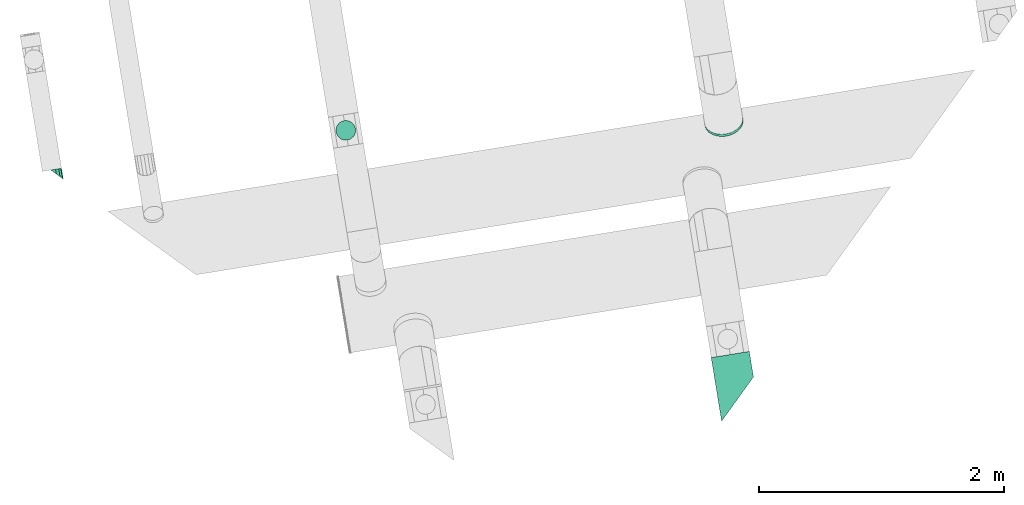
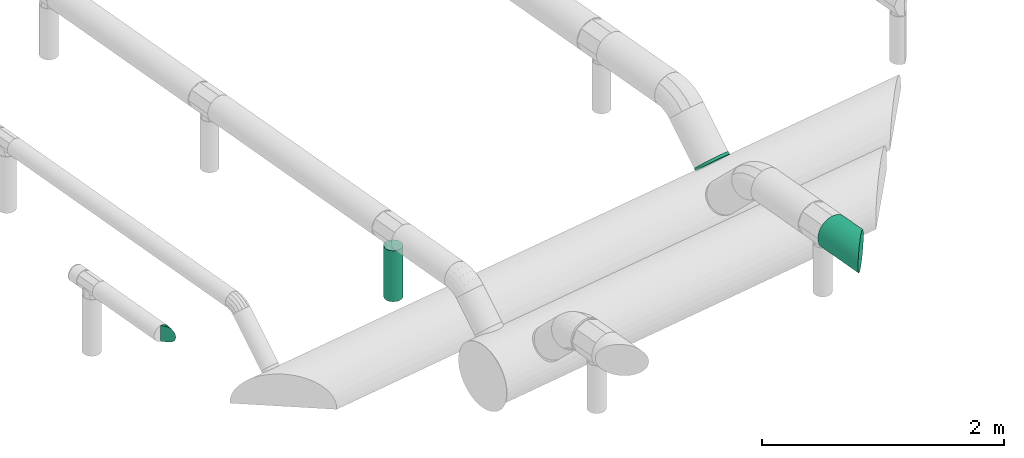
# One storey, part 11 of 15: 2 flow fittings, 2 flow segments.
"""IFC2X3 building model written with IfcOpenShell, lengths in millimetres."""

from ifc_helpers import new_model, entity, si_unit, converted_unit, derived_unit, direction, frame, origin, origin_with_axes, place, context, subcontext, project, spatial, faceted_brep, source, transform, mapped, material, type_object, element, save


model = new_model("IFC2X3")

# Units and contexts
model_context = context("Model", 3, precision=0.01, world=origin(), true_north=direction((6.12323399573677e-17, 1.0)))
plan_context = context("Plan", 3, precision=1e-05, world=origin_with_axes())
body_context = subcontext(model_context, "Body", "Model", "MODEL_VIEW")
ifc_project = project(units=[converted_unit("PLANEANGLEUNIT", "DEGREE", entity("IfcPositiveLengthMeasure", 0.0174532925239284), si_unit("PLANEANGLEUNIT", "RADIAN"), dimensions=[0, 0, 0, 0, 0, 0, 0]), si_unit("AREAUNIT", "SQUARE_METRE"), si_unit("LENGTHUNIT", "METRE", prefix="MILLI"), si_unit("MASSUNIT", "GRAM", prefix="KILO"), si_unit("POWERUNIT", "WATT"), si_unit("PRESSUREUNIT", "PASCAL", prefix="KILO"), si_unit("FORCEUNIT", "NEWTON", prefix="KILO"), si_unit("ELECTRICVOLTAGEUNIT", "VOLT"), si_unit("ELECTRICCURRENTUNIT", "AMPERE"), si_unit("THERMODYNAMICTEMPERATUREUNIT", "DEGREE_CELSIUS"), si_unit("TIMEUNIT", "SECOND"), si_unit("VOLUMEUNIT", "CUBIC_METRE"), derived_unit("LINEARVELOCITYUNIT", [(si_unit("LENGTHUNIT", "METRE"), 1), (si_unit("TIMEUNIT", "SECOND"), -1)]), derived_unit("VOLUMETRICFLOWRATEUNIT", [(si_unit("VOLUMEUNIT", "CUBIC_METRE"), 1), (si_unit("TIMEUNIT", "SECOND"), -1)]), derived_unit("THERMALTRANSMITTANCEUNIT", [(si_unit("POWERUNIT", "WATT"), 1), (si_unit("THERMODYNAMICTEMPERATUREUNIT", "KELVIN"), -1), (si_unit("AREAUNIT", "SQUARE_METRE"), -1)]), derived_unit("SOUNDPRESSUREUNIT", [(si_unit("PRESSUREUNIT", "PASCAL"), 1)])], contexts=[model_context, plan_context])

# Site, building, storey
site_placement = place(None, frame((5.09380697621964e-08, 5.80416781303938e-08, 0.0), z_axis=(0.0, 0.0, 1.0), x_axis=(-0.160806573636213, 0.986985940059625, 0.0)))
site = spatial("IfcSite", under=ifc_project, at=site_placement, Name="Default", CompositionType="ELEMENT")
building_placement = place(site_placement, frame((0.0, 0.0, 0.0), z_axis=(0.0, 0.0, 1.0), x_axis=(1.0, -2.77555756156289e-17, 0.0)))
building = spatial("IfcBuilding", under=site, at=building_placement, Name="Bygning (endres i Project Information)", CompositionType="ELEMENT")
storey_placement = place(building_placement, frame((0.0, 0.0, 51360.0000000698), z_axis=(0.0, 0.0, 1.0), x_axis=(1.0, -2.77555756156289e-17, 0.0)))
storey = spatial("IfcBuildingStorey", under=building, at=storey_placement, Name="H01-Nivå D+0,36", CompositionType="ELEMENT", Elevation=51360.0000000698)

# Flow fittings
ifc_material = material(Name="3601.001 Tilluft")
duct_fitting_type_1 = type_object("IfcDuctFittingType", Name="magicirc_tapoutlet_001:magicirc_tapoutlet_001", PredefinedType="NOTDEFINED", material=ifc_material)
shared_shape = source(origin(), body_context, "Body", "Brep", [
    faceted_brep([(-6.09600000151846, 0.0, -157.500000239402), (-6.09600000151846, -40.7639996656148, -152.133317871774), (-6.09600000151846, -78.7500001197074, -136.399001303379), (-6.09600000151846, -111.369318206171, -111.369318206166), (-6.09600000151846, -136.399001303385, -78.7500001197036), (-6.09600000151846, -152.133317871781, -40.7639996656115), (-6.09600000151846, -157.500000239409, 0.0), (-6.09600000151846, -152.13331787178, 40.7639996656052), (-6.09600000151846, -136.399001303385, 78.750000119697), (-6.09600000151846, -111.369318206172, 111.36931820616), (-6.09600000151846, -78.7500001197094, 136.399001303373), (-6.09600000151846, -40.7639996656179, 152.133317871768), (-6.09600000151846, 0.0, 157.500000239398), (-6.09600000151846, 40.7639996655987, 152.133317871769), (-6.09600000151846, 78.7500001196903, 136.399001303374), (-6.09600000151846, 111.369318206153, 111.369318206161), (-6.09600000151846, 136.399001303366, 78.7500001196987), (-6.09600000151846, 152.133317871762, 40.7639996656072), (-6.09600000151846, 157.500000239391, 0.0), (-6.09600000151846, 152.133317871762, -40.7639996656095), (-6.09600000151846, 136.399001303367, -78.7500001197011), (-6.09600000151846, 111.369318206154, -111.369318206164), (-6.09600000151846, 78.7500001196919, -136.399001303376), (-6.09600000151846, 40.7639996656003, -152.133317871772), (0.0, 0.0, 157.500000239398), (20.0, 0.0, 157.500000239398), (20.0, 40.7639996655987, 152.133317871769), (0.0, 40.7639996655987, 152.133317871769), (20.0, 78.7500001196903, 136.399001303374), (0.0, 78.7500001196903, 136.399001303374), (20.0, 111.369318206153, 111.369318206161), (0.0, 111.369318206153, 111.369318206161), (0.0, 136.399001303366, 78.7500001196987), (20.0, 136.399001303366, 78.7500001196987), (20.0, 152.133317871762, 40.7639996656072), (0.0, 152.133317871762, 40.7639996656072), (20.0, 157.500000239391, 0.0), (0.0, 157.500000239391, 0.0), (20.0, 152.133317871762, -40.7639996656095), (0.0, 152.133317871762, -40.7639996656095), (20.0, 136.399001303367, -78.7500001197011), (0.0, 136.399001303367, -78.7500001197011), (20.0, 111.369318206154, -111.369318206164), (0.0, 111.369318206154, -111.369318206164), (0.0, 40.7639996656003, -152.133317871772), (20.0, 40.7639996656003, -152.133317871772), (20.0, 0.0, -157.500000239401), (0.0, 0.0, -157.500000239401), (0.0, 78.7500001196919, -136.399001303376), (20.0, 78.7500001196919, -136.399001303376), (20.0, -40.7639996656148, -152.133317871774), (0.0, -40.7639996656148, -152.133317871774), (20.0, -78.7500001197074, -136.399001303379), (0.0, -78.7500001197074, -136.399001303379), (20.0, -111.369318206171, -111.369318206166), (0.0, -111.369318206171, -111.369318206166), (0.0, -136.399001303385, -78.7500001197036), (20.0, -136.399001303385, -78.7500001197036), (20.0, -152.133317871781, -40.7639996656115), (0.0, -152.133317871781, -40.7639996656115), (20.0, -157.50000023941, 0.0), (0.0, -157.50000023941, 0.0), (20.0, -152.13331787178, 40.7639996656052), (0.0, -152.13331787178, 40.7639996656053), (20.0, -136.399001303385, 78.750000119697), (0.0, -136.399001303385, 78.750000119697), (20.0, -111.369318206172, 111.36931820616), (0.0, -111.369318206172, 111.36931820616), (0.0, -78.7500001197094, 136.399001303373), (20.0, -78.7500001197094, 136.399001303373), (20.0, -40.7639996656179, 152.133317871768), (0.0, -40.7639996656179, 152.133317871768)], [[[0, 1, 2, 3, 4, 5, 6, 7, 8, 9, 10, 11, 12, 13, 14, 15, 16, 17, 18, 19, 20, 21, 22, 23]], [[12, 24, 25, 26, 27, 13]], [[13, 27, 26, 28, 29, 14]], [[14, 29, 28, 30, 31, 15]], [[16, 32, 33, 34, 35, 17]], [[17, 35, 34, 36, 37, 18]], [[15, 31, 30, 33, 32, 16]], [[18, 37, 36, 38, 39, 19]], [[19, 39, 38, 40, 41, 20]], [[20, 41, 40, 42, 43, 21]], [[44, 45, 46, 47, 0, 23]], [[48, 49, 45, 44, 23, 22]], [[22, 21, 43, 42, 49, 48]], [[0, 47, 46, 50, 51, 1]], [[1, 51, 50, 52, 53, 2]], [[2, 53, 52, 54, 55, 3]], [[4, 56, 57, 58, 59, 5]], [[5, 59, 58, 60, 61, 6]], [[3, 55, 54, 57, 56, 4]], [[6, 61, 60, 62, 63, 7]], [[7, 63, 62, 64, 65, 8]], [[8, 65, 64, 66, 67, 9]], [[10, 68, 69, 70, 71, 11]], [[11, 71, 70, 25, 24, 12]], [[9, 67, 66, 69, 68, 10]], [[45, 49, 42, 40, 38, 36, 34, 33, 30, 28, 26, 25, 70, 69, 66, 64, 62, 60, 58, 57, 54, 52, 50, 46]]]),
    faceted_brep([(20.0, 40.7639996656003, -152.133317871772), (20.0, 78.7500001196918, -136.399001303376), (20.0, 111.369318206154, -111.369318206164), (20.0, 136.399001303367, -78.7500001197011), (20.0, 152.133317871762, -40.7639996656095), (20.0, 157.500000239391, 0.0), (20.0, 152.133317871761, 40.7639996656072), (20.0, 136.399001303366, 78.7500001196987), (20.0, 111.369318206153, 111.369318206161), (20.0, 78.7500001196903, 136.399001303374), (20.0, 40.7639996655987, 152.133317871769), (20.0, 0.0, 157.500000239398), (20.0, -40.763999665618, 152.133317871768), (20.0, -78.7500001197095, 136.399001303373), (20.0, -111.369318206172, 111.36931820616), (20.0, -136.399001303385, 78.750000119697), (20.0, -152.13331787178, 40.7639996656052), (20.0, -157.50000023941, 0.0), (20.0, -152.133317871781, -40.7639996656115), (20.0, -136.399001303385, -78.7500001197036), (20.0, -111.369318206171, -111.369318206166), (20.0, -78.7500001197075, -136.399001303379), (20.0, -40.7639996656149, -152.133317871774), (20.0, 0.0, -157.500000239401), (0.0, 0.0, 157.500000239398), (0.0, 40.7639996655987, 152.133317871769), (-6.09600000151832, 40.7639996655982, 152.133317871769), (-6.09600000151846, 0.0, 157.500000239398), (0.0, 78.7500001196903, 136.399001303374), (-6.09600000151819, 78.7500001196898, 136.399001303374), (0.0, 111.369318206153, 111.369318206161), (-6.09600000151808, 111.369318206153, 111.369318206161), (0.0, 136.399001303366, 78.7500001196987), (0.0, 152.133317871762, 40.7639996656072), (-6.09600000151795, 152.133317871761, 40.7639996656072), (-6.096000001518, 136.399001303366, 78.7500001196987), (0.0, 157.500000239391, 0.0), (-6.09600000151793, 157.500000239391, 0.0), (0.0, 152.133317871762, -40.7639996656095), (-6.09600000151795, 152.133317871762, -40.7639996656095), (0.0, 136.399001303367, -78.7500001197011), (-6.096000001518, 136.399001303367, -78.7500001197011), (0.0, 111.369318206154, -111.369318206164), (-6.09600000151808, 111.369318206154, -111.369318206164), (0.0, 0.0, -157.500000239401), (-6.09600000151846, 0.0, -157.500000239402), (-6.09600000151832, 40.7639996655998, -152.133317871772), (0.0, 40.7639996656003, -152.133317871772), (-6.09600000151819, 78.7500001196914, -136.399001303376), (0.0, 78.7500001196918, -136.399001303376), (0.0, -40.7639996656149, -152.133317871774), (-6.09600000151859, -40.7639996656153, -152.133317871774), (0.0, -78.7500001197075, -136.399001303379), (-6.09600000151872, -78.7500001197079, -136.399001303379), (0.0, -111.369318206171, -111.369318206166), (-6.09600000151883, -111.369318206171, -111.369318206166), (0.0, -136.399001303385, -78.7500001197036), (0.0, -152.133317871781, -40.7639996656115), (-6.09600000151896, -152.133317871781, -40.7639996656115), (-6.09600000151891, -136.399001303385, -78.7500001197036), (0.0, -157.50000023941, 0.0), (-6.09600000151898, -157.500000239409, 0.0), (0.0, -152.13331787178, 40.7639996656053), (-6.09600000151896, -152.13331787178, 40.7639996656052), (0.0, -136.399001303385, 78.750000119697), (-6.09600000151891, -136.399001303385, 78.750000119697), (0.0, -111.369318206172, 111.36931820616), (-6.09600000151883, -111.369318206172, 111.36931820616), (0.0, -78.7500001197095, 136.399001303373), (0.0, -40.7639996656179, 152.133317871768), (-6.09600000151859, -40.7639996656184, 152.133317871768), (-6.09600000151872, -78.7500001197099, 136.399001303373)], [[[0, 1, 2, 3, 4, 5, 6, 7, 8, 9, 10, 11, 12, 13, 14, 15, 16, 17, 18, 19, 20, 21, 22, 23]], [[24, 11, 10, 25, 26, 27]], [[25, 10, 9, 28, 29, 26]], [[28, 9, 8, 30, 31, 29]], [[32, 7, 6, 33, 34, 35]], [[33, 6, 5, 36, 37, 34]], [[30, 8, 7, 32, 35, 31]], [[36, 5, 4, 38, 39, 37]], [[38, 4, 3, 40, 41, 39]], [[40, 3, 2, 42, 43, 41]], [[0, 23, 44, 45, 46, 47]], [[1, 0, 47, 46, 48, 49]], [[49, 48, 43, 42, 2, 1]], [[44, 23, 22, 50, 51, 45]], [[50, 22, 21, 52, 53, 51]], [[52, 21, 20, 54, 55, 53]], [[56, 19, 18, 57, 58, 59]], [[57, 18, 17, 60, 61, 58]], [[54, 20, 19, 56, 59, 55]], [[60, 17, 16, 62, 63, 61]], [[62, 16, 15, 64, 65, 63]], [[64, 15, 14, 66, 67, 65]], [[68, 13, 12, 69, 70, 71]], [[69, 12, 11, 24, 27, 70]], [[66, 14, 13, 68, 71, 67]], [[45, 51, 53, 55, 59, 58, 61, 63, 65, 67, 71, 70, 27, 26, 29, 31, 35, 34, 37, 39, 41, 43, 48, 46]]]),
    faceted_brep([(-6.09600000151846, 0.0, -157.500000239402), (-6.09600000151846, -40.7639996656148, -152.133317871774), (-6.09600000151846, -78.7500001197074, -136.399001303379), (-6.09600000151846, -111.369318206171, -111.369318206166), (-6.09600000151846, -136.399001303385, -78.7500001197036), (-6.09600000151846, -152.133317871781, -40.7639996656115), (-6.09600000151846, -157.500000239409, 0.0), (-6.09600000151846, -152.13331787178, 40.7639996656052), (-6.09600000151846, -136.399001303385, 78.750000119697), (-6.09600000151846, -111.369318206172, 111.36931820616), (-6.09600000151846, -78.7500001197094, 136.399001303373), (-6.09600000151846, -40.7639996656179, 152.133317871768), (-6.09600000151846, 0.0, 157.500000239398), (-6.09600000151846, 40.7639996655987, 152.133317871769), (-6.09600000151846, 78.7500001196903, 136.399001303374), (-6.09600000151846, 111.369318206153, 111.369318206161), (-6.09600000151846, 136.399001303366, 78.7500001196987), (-6.09600000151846, 152.133317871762, 40.7639996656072), (-6.09600000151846, 157.500000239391, 0.0), (-6.09600000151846, 152.133317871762, -40.7639996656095), (-6.09600000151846, 136.399001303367, -78.7500001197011), (-6.09600000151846, 111.369318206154, -111.369318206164), (-6.09600000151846, 78.7500001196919, -136.399001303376), (-6.09600000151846, 40.7639996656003, -152.133317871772), (0.0, 0.0, 157.500000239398), (20.0, 0.0, 157.500000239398), (20.0, 40.7639996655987, 152.133317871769), (0.0, 40.7639996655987, 152.133317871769), (20.0, 78.7500001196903, 136.399001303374), (0.0, 78.7500001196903, 136.399001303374), (20.0, 111.369318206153, 111.369318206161), (0.0, 111.369318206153, 111.369318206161), (0.0, 136.399001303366, 78.7500001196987), (20.0, 136.399001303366, 78.7500001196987), (20.0, 152.133317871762, 40.7639996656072), (0.0, 152.133317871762, 40.7639996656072), (20.0, 157.500000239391, 0.0), (0.0, 157.500000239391, 0.0), (20.0, 152.133317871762, -40.7639996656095), (0.0, 152.133317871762, -40.7639996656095), (20.0, 136.399001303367, -78.7500001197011), (0.0, 136.399001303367, -78.7500001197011), (20.0, 111.369318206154, -111.369318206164), (0.0, 111.369318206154, -111.369318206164), (0.0, 40.7639996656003, -152.133317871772), (20.0, 40.7639996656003, -152.133317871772), (20.0, 0.0, -157.500000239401), (0.0, 0.0, -157.500000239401), (0.0, 78.7500001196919, -136.399001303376), (20.0, 78.7500001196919, -136.399001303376), (20.0, -40.7639996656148, -152.133317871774), (0.0, -40.7639996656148, -152.133317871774), (20.0, -78.7500001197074, -136.399001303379), (0.0, -78.7500001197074, -136.399001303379), (20.0, -111.369318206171, -111.369318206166), (0.0, -111.369318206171, -111.369318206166), (0.0, -136.399001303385, -78.7500001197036), (20.0, -136.399001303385, -78.7500001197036), (20.0, -152.133317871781, -40.7639996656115), (0.0, -152.133317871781, -40.7639996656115), (20.0, -157.50000023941, 0.0), (0.0, -157.50000023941, 0.0), (20.0, -152.13331787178, 40.7639996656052), (0.0, -152.13331787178, 40.7639996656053), (20.0, -136.399001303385, 78.750000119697), (0.0, -136.399001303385, 78.750000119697), (20.0, -111.369318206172, 111.36931820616), (0.0, -111.369318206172, 111.36931820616), (0.0, -78.7500001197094, 136.399001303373), (20.0, -78.7500001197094, 136.399001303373), (20.0, -40.7639996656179, 152.133317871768), (0.0, -40.7639996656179, 152.133317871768)], [[[0, 1, 2, 3, 4, 5, 6, 7, 8, 9, 10, 11, 12, 13, 14, 15, 16, 17, 18, 19, 20, 21, 22, 23]], [[12, 24, 25, 26, 27, 13]], [[13, 27, 26, 28, 29, 14]], [[14, 29, 28, 30, 31, 15]], [[16, 32, 33, 34, 35, 17]], [[17, 35, 34, 36, 37, 18]], [[15, 31, 30, 33, 32, 16]], [[18, 37, 36, 38, 39, 19]], [[19, 39, 38, 40, 41, 20]], [[20, 41, 40, 42, 43, 21]], [[44, 45, 46, 47, 0, 23]], [[48, 49, 45, 44, 23, 22]], [[22, 21, 43, 42, 49, 48]], [[0, 47, 46, 50, 51, 1]], [[1, 51, 50, 52, 53, 2]], [[2, 53, 52, 54, 55, 3]], [[4, 56, 57, 58, 59, 5]], [[5, 59, 58, 60, 61, 6]], [[3, 55, 54, 57, 56, 4]], [[6, 61, 60, 62, 63, 7]], [[7, 63, 62, 64, 65, 8]], [[8, 65, 64, 66, 67, 9]], [[10, 68, 69, 70, 71, 11]], [[11, 71, 70, 25, 24, 12]], [[9, 67, 66, 69, 68, 10]], [[45, 49, 42, 40, 38, 36, 34, 33, 30, 28, 26, 25, 70, 69, 66, 64, 62, 60, 58, 57, 54, 52, 50, 46]]]),
])
flow_fitting_1_placement = place(storey_placement, frame((995383.020316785, -343179.24363092, 3372.73865807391), z_axis=(0.707106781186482, -1.96261557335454e-17, -0.707106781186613), x_axis=(0.707106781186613, 0.0, 0.707106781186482)))
element("IfcFlowFitting", 1, at=flow_fitting_1_placement, inside=storey, type_object=duct_fitting_type_1, material=ifc_material, Name="magicirc_tapoutlet_001:magicirc_tapoutlet_001", ObjectType="magicirc_tapoutlet_001:magicirc_tapoutlet_001", context=body_context, shape_type="MappedRepresentation", body=[
    mapped(shared_shape, transform((0.0, 0.0, 0.0), scale=1.0)),
])
duct_fitting_type_2 = type_object("IfcDuctFittingType", Name="magicirc_elbow_full_radius_NOR:magicirc_elbow_full_radius_NOR", PredefinedType="NOTDEFINED", material=ifc_material)
flow_fitting_2_placement = place(storey_placement, frame((995814.60860431, -337705.593327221, 3804.36866273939), z_axis=(-2.77555756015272e-17, -1.0, -8.84761341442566e-22), x_axis=(-0.999999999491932, 2.77555756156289e-17, -3.18768867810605e-05)))
element("IfcFlowFitting", 2, at=flow_fitting_2_placement, inside=storey, type_object=duct_fitting_type_2, Name="magicirc_elbow_full_radius_NOR:magicirc_elbow_full_radius_NOR", ObjectType="magicirc_elbow_full_radius_NOR:magicirc_elbow_full_radius_NOR", context=body_context, shape_type="Brep", body=[
    faceted_brep([(-25.321484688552, -68.518839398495, 30.6146746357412), (-55.9364819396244, -78.6390176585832, 0.0), (-66.2741700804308, -80.0000001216, 0.0), (-66.2741700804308, -73.9103627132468, 30.6146746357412), (-22.1821552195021, 83.6303902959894, 33.7491540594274), (0.637184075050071, 82.0857437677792, 56.5685425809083), (-14.5584412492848, 70.4257303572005, 56.5685425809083), (17.9783944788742, 62.9578618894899, 73.9103627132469), (-1.58150727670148, 47.9490213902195, 73.9103627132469), (24.0669612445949, 29.3709644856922, 80.0000001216), (13.7258300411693, 21.4359354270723, 80.0000001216), (21.1233739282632, 8.62301356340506, 77.0570741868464), (17.9760797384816, -9.65714618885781, 73.9103627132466), (0.633142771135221, -44.6927569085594, 56.5685425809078), (-10.2221066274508, -49.1891484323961, 56.5685425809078), (-16.9394619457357, -24.1196370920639, 73.9103627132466), (-66.2741700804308, -56.5685425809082, 56.5685425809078), (-66.2741700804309, -30.6146746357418, 73.9103627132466), (-66.2741700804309, 0.0, 80.0000001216), (-24.8631228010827, 5.45186780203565, 80.0000001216), (-66.274170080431, 30.6146746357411, 73.9103627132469), (-32.7867836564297, 35.0233726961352, 73.9103627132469), (-66.274170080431, 56.5685425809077, 56.5685425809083), (-39.5041389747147, 60.0928840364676, 56.5685425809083), (-66.274170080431, 73.9103627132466, 30.6146746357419), (-43.9925323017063, 76.8437959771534, 30.6146746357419), (-55.9313816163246, 81.3616540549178, 0.0), (-45.0061912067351, 80.6268225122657, 10.9252138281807), (-66.274170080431, 80.0000001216, 0.0), (-66.274170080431, 77.9427132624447, -10.342679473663), (-25.3166043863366, 84.5796186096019, 30.6146746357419), (-8.62166273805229, -55.1620863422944, 47.3140708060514), (-66.2741700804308, -77.9437016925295, -10.3377103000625)], [[[0, 1, 2, 3]], [[4, 5, 6]], [[5, 7, 8, 6]], [[7, 9, 10, 8]], [[9, 11, 10]], [[12, 13, 14, 15]], [[16, 17, 15, 14]], [[17, 18, 19, 15]], [[18, 20, 21, 19]], [[20, 22, 23, 21]], [[22, 24, 25, 23]], [[26, 27, 25, 24, 28]], [[29, 26, 28]], [[11, 12, 15, 19, 10]], [[19, 21, 8, 10]], [[21, 23, 6, 8]], [[30, 4, 6, 23, 25]], [[27, 30, 25]], [[13, 31, 14]], [[1, 32, 2]], [[31, 0, 3, 16, 14]], [[32, 29, 28, 24, 22, 20, 18, 17, 16, 3, 2]], [[31, 13, 12, 11, 9, 7, 5, 4, 30, 27, 26, 29, 32, 1, 0]]], orient=[[False], [False], [False], [False], [False], [False], [False], [False], [False], [False], [False], [False], [False], [False], [False], [False], [False], [False], [False], [False], [False], [False], [False]]),
])

# Flow segments
duct_segment_type = type_object("IfcDuctSegmentType", Name="Round Duct:Sirkulær kanal", PredefinedType="NOTDEFINED", material=ifc_material)
flow_segment_1_placement = place(storey_placement, frame((0.0, 0.0, 0.0), z_axis=(0.0, 0.0, 1.0), x_axis=(1.0, -2.77555756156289e-17, 0.0)))
element("IfcFlowSegment", 3, at=flow_segment_1_placement, inside=storey, type_object=duct_segment_type, Name="Round Duct:Sirkulær kanal", ObjectType="Round Duct:Sirkulær kanal", context=body_context, shape_type="Brep", body=[
    faceted_brep([(995813.187354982, -340204.100723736, 3139.99999993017), (995799.295500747, -340202.885343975, 3139.99999993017), (995799.295500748, -340202.885343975, 3654.29489743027), (995813.187354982, -340204.100723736, 3654.29489743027), (995827.079209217, -340202.885343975, 3139.99999993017), (995827.079209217, -340202.885343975, 3654.29489743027), (995840.54896649, -340199.276133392, 3139.99999993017), (995840.54896649, -340199.276133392, 3654.29489743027), (995853.187355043, -340193.382756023, 3139.99999993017), (995853.187355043, -340193.382756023, 3654.29489743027), (995864.610363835, -340185.384279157, 3139.99999993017), (995864.610363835, -340185.384279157, 3654.29489743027), (995874.470910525, -340175.523732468, 3139.99999993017), (995874.470910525, -340175.523732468, 3654.29489743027), (995882.46938739, -340164.100723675, 3139.99999993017), (995882.46938739, -340164.100723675, 3654.29489743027), (995888.362764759, -340151.462335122, 3139.99999993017), (995888.362764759, -340151.462335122, 3654.29489743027), (995891.971975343, -340137.992577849, 3139.99999993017), (995891.971975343, -340137.992577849, 3654.29489743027), (995893.187355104, -340124.100723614, 3139.99999993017), (995893.187355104, -340124.100723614, 3654.29489743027), (995891.971975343, -340110.20886938, 3139.99999993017), (995891.971975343, -340110.20886938, 3654.29489743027), (995888.362764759, -340096.739112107, 3139.99999993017), (995888.362764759, -340096.739112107, 3654.29489743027), (995882.46938739, -340084.100723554, 3139.99999993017), (995882.46938739, -340084.100723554, 3654.29489743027), (995874.470910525, -340072.677714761, 3139.99999993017), (995874.470910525, -340072.677714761, 3654.29489743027), (995864.610363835, -340062.817168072, 3139.99999993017), (995864.610363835, -340062.817168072, 3654.29489743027), (995853.187355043, -340054.818691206, 3139.99999993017), (995853.187355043, -340054.818691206, 3654.29489743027), (995840.54896649, -340048.925313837, 3139.99999993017), (995840.54896649, -340048.925313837, 3654.29489743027), (995827.079209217, -340045.316103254, 3139.99999993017), (995827.079209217, -340045.316103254, 3654.29489743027), (995813.187354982, -340044.100723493, 3139.99999993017), (995813.187354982, -340044.100723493, 3654.29489743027), (995799.295500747, -340045.316103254, 3139.99999993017), (995799.295500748, -340045.316103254, 3654.29489743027), (995785.825743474, -340048.925313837, 3139.99999993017), (995785.825743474, -340048.925313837, 3654.29489743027), (995773.187354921, -340054.818691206, 3139.99999993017), (995773.187354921, -340054.818691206, 3654.29489743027), (995761.764346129, -340062.817168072, 3139.99999993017), (995761.764346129, -340062.817168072, 3654.29489743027), (995751.903799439, -340072.677714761, 3139.99999993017), (995751.903799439, -340072.677714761, 3654.29489743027), (995743.905322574, -340084.100723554, 3139.99999993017), (995743.905322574, -340084.100723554, 3654.29489743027), (995738.011945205, -340096.739112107, 3139.99999993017), (995738.011945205, -340096.739112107, 3654.29489743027), (995734.402734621, -340110.20886938, 3139.99999993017), (995734.402734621, -340110.20886938, 3654.29489743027), (995733.18735486, -340124.100723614, 3139.99999993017), (995733.18735486, -340124.100723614, 3654.29489743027), (995734.402734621, -340137.992577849, 3139.99999993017), (995734.402734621, -340137.992577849, 3654.29489743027), (995738.011945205, -340151.462335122, 3139.99999993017), (995738.011945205, -340151.462335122, 3654.29489743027), (995743.905322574, -340164.100723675, 3139.99999993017), (995743.905322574, -340164.100723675, 3654.29489743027), (995751.903799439, -340175.523732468, 3139.99999993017), (995751.903799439, -340175.523732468, 3654.29489743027), (995761.764346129, -340185.384279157, 3139.99999993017), (995761.764346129, -340185.384279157, 3654.29489743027), (995773.187354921, -340193.382756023, 3139.99999993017), (995773.187354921, -340193.382756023, 3654.29489743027), (995785.825743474, -340199.276133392, 3139.99999993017), (995785.825743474, -340199.276133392, 3654.29489743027)], [[[0, 1, 2, 3]], [[4, 0, 3, 5]], [[6, 4, 5, 7]], [[8, 6, 7, 9]], [[10, 8, 9, 11]], [[12, 10, 11, 13]], [[14, 12, 13, 15]], [[16, 14, 15, 17]], [[18, 16, 17, 19]], [[20, 18, 19, 21]], [[22, 20, 21, 23]], [[24, 22, 23, 25]], [[26, 24, 25, 27]], [[28, 26, 27, 29]], [[30, 28, 29, 31]], [[32, 30, 31, 33]], [[34, 32, 33, 35]], [[36, 34, 35, 37]], [[38, 36, 37, 39]], [[40, 38, 39, 41]], [[42, 40, 41, 43]], [[44, 42, 43, 45]], [[46, 44, 45, 47]], [[48, 46, 47, 49]], [[50, 48, 49, 51]], [[52, 50, 51, 53]], [[54, 52, 53, 55]], [[56, 54, 55, 57]], [[58, 56, 57, 59]], [[60, 58, 59, 61]], [[62, 60, 61, 63]], [[64, 62, 63, 65]], [[66, 64, 65, 67]], [[68, 66, 67, 69]], [[70, 68, 69, 71]], [[1, 70, 71, 2]], [[3, 2, 71, 69, 67, 65, 63, 61, 59, 57, 55, 53, 51, 49, 47, 45, 43, 41, 39, 37, 35, 33, 31, 29, 27, 25, 23, 21, 19, 17, 15, 13, 11, 9, 7, 5]], [[4, 6, 8, 10, 12, 14, 16, 18, 20, 22, 24, 26, 28, 30, 32, 34, 36, 38, 40, 42, 44, 46, 48, 50, 52, 54, 56, 58, 60, 62, 64, 66, 68, 70, 1, 0]]], orient=[[False], [False], [False], [False], [False], [False], [False], [False], [False], [False], [False], [False], [False], [False], [False], [False], [False], [False], [False], [False], [False], [False], [False], [False], [False], [False], [False], [False], [False], [False], [False], [False], [False], [False], [False], [False], [False], [False]]),
])
flow_segment_2_placement = place(storey_placement, frame((0.0, 0.0, 0.0), z_axis=(0.0, 0.0, 1.0), x_axis=(1.0, -2.77555756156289e-17, 0.0)))
element("IfcFlowSegment", 4, at=flow_segment_2_placement, inside=storey, type_object=duct_segment_type, Name="Round Duct:Sirkulær kanal", ObjectType="Round Duct:Sirkulær kanal", context=body_context, shape_type="Brep", body=[
    faceted_brep([(993292.359710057, -343083.151094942, 3804.4), (993289.966931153, -343080.758316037, 3831.74958802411), (993503.859892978, -343080.758316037, 3831.74958802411), (993503.859892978, -343083.151094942, 3804.4), (993289.966931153, -343080.758316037, 3777.05041197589), (993503.859892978, -343080.758316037, 3777.05041197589), (993282.861297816, -343073.652682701, 3750.53182734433), (993503.859892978, -343073.652682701, 3750.53182734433), (993271.258711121, -343062.050096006, 3725.6499998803), (993503.859892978, -343062.050096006, 3725.6499998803), (993255.511709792, -343046.303094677, 3703.16095132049), (993503.859892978, -343046.303094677, 3703.16095132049), (993236.098758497, -343026.890143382, 3683.74800002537), (993503.859892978, -343026.890143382, 3683.74800002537), (993213.609709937, -343004.401094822, 3668.00099869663), (993503.859892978, -343004.401094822, 3668.00099869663), (993188.727882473, -342979.519267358, 3656.39841200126), (993503.859892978, -342979.519267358, 3656.39841200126), (993162.209297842, -342953.000682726, 3649.29277866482), (993503.859892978, -342953.000682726, 3649.29277866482), (993134.859709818, -342925.651094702, 3646.8999997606), (993503.859892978, -342925.651094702, 3646.8999997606), (993107.510121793, -342898.301506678, 3649.29277866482), (993503.859892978, -342898.301506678, 3649.29277866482), (993080.991537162, -342871.782922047, 3656.39841200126), (993503.859892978, -342871.782922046, 3656.39841200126), (993056.109709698, -342846.901094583, 3668.00099869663), (993503.859892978, -342846.901094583, 3668.00099869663), (993033.620661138, -342824.412046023, 3683.74800002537), (993503.859892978, -342824.412046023, 3683.74800002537), (993014.207709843, -342804.999094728, 3703.16095132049), (993503.859892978, -342804.999094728, 3703.16095132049), (992998.460708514, -342789.252093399, 3725.6499998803), (993503.859892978, -342789.252093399, 3725.6499998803), (992986.858121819, -342777.649506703, 3750.53182734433), (993503.859892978, -342777.649506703, 3750.53182734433), (992979.752488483, -342770.543873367, 3777.05041197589), (993503.859892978, -342770.543873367, 3777.05041197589), (992977.359709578, -342768.151094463, 3804.4), (993503.859892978, -342768.151094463, 3804.4), (992979.752488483, -342770.543873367, 3831.74958802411), (993503.859892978, -342770.543873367, 3831.74958802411), (992986.858121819, -342777.649506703, 3858.26817265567), (993503.859892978, -342777.649506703, 3858.26817265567), (992998.460708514, -342789.252093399, 3883.1500001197), (993503.859892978, -342789.252093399, 3883.1500001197), (993014.207709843, -342804.999094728, 3905.63904867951), (993503.859892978, -342804.999094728, 3905.63904867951), (993033.620661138, -342824.412046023, 3925.05199997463), (993503.859892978, -342824.412046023, 3925.05199997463), (993056.109709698, -342846.901094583, 3940.79900130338), (993503.859892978, -342846.901094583, 3940.79900130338), (993080.991537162, -342871.782922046, 3952.40158799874), (993503.859892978, -342871.782922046, 3952.40158799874), (993107.510121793, -342898.301506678, 3959.50722133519), (993503.859892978, -342898.301506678, 3959.50722133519), (993134.859709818, -342925.651094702, 3961.9000002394), (993503.859892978, -342925.651094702, 3961.9000002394), (993162.209297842, -342953.000682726, 3959.50722133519), (993503.859892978, -342953.000682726, 3959.50722133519), (993188.727882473, -342979.519267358, 3952.40158799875), (993503.859892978, -342979.519267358, 3952.40158799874), (993213.609709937, -343004.401094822, 3940.79900130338), (993503.859892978, -343004.401094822, 3940.79900130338), (993236.098758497, -343026.890143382, 3925.05199997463), (993503.859892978, -343026.890143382, 3925.05199997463), (993255.511709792, -343046.303094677, 3905.63904867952), (993503.859892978, -343046.303094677, 3905.63904867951), (993271.258711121, -343062.050096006, 3883.1500001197), (993503.859892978, -343062.050096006, 3883.1500001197), (993282.861297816, -343073.652682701, 3858.26817265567), (993503.859892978, -343073.652682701, 3858.26817265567)], [[[0, 1, 2, 3]], [[4, 0, 3, 5]], [[6, 4, 5, 7]], [[8, 6, 7, 9]], [[10, 8, 9, 11]], [[12, 10, 11, 13]], [[14, 12, 13, 15]], [[16, 14, 15, 17]], [[18, 16, 17, 19]], [[20, 18, 19, 21]], [[22, 20, 21, 23]], [[24, 22, 23, 25]], [[26, 24, 25, 27]], [[28, 26, 27, 29]], [[30, 28, 29, 31]], [[32, 30, 31, 33]], [[34, 32, 33, 35]], [[36, 34, 35, 37]], [[38, 36, 37, 39]], [[40, 38, 39, 41]], [[42, 40, 41, 43]], [[44, 42, 43, 45]], [[46, 44, 45, 47]], [[48, 46, 47, 49]], [[50, 48, 49, 51]], [[52, 50, 51, 53]], [[54, 52, 53, 55]], [[56, 54, 55, 57]], [[58, 56, 57, 59]], [[60, 58, 59, 61]], [[62, 60, 61, 63]], [[64, 62, 63, 65]], [[66, 64, 65, 67]], [[68, 66, 67, 69]], [[70, 68, 69, 71]], [[1, 70, 71, 2]], [[3, 2, 71, 69, 67, 65, 63, 61, 59, 57, 55, 53, 51, 49, 47, 45, 43, 41, 39, 37, 35, 33, 31, 29, 27, 25, 23, 21, 19, 17, 15, 13, 11, 9, 7, 5]], [[4, 6, 8, 10, 12, 14, 16, 18, 20, 22, 24, 26, 28, 30, 32, 34, 36, 38, 40, 42, 44, 46, 48, 50, 52, 54, 56, 58, 60, 62, 64, 66, 68, 70, 1, 0]]], orient=[[False], [False], [False], [False], [False], [False], [False], [False], [False], [False], [False], [False], [False], [False], [False], [False], [False], [False], [False], [False], [False], [False], [False], [False], [False], [False], [False], [False], [False], [False], [False], [False], [False], [False], [False], [False], [False], [False]]),
])

save(model, "model.ifc")
